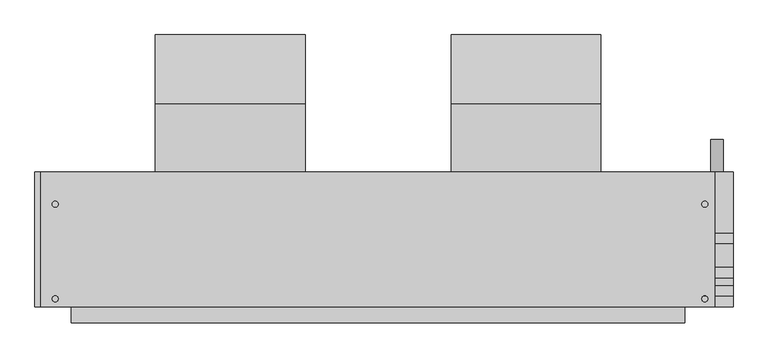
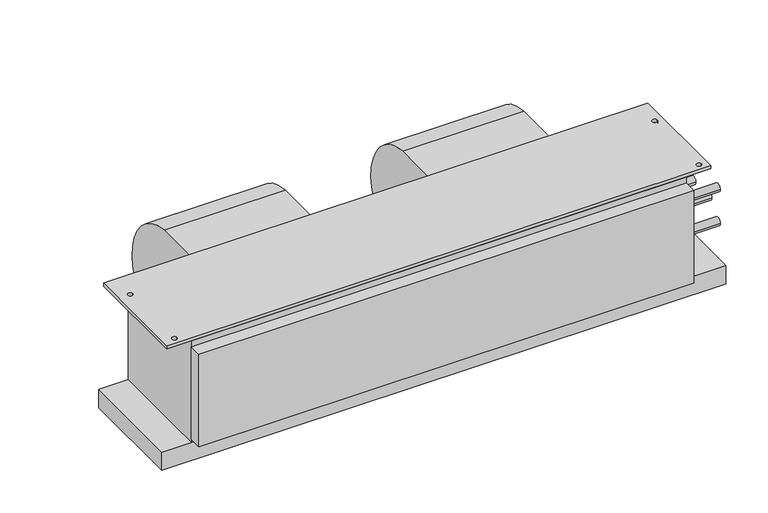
"""IFC4 building model written with IfcOpenShell, lengths in millimetres: proxy geometry, Concealed_Horizontal_Fan_Coil_Unit_-_42CAA_-_CARRIER_-_4-Pipe_RH_2022 : Size 08 - 277v/60Hz/1Ph - 4/1 Coil."""

from ifc_helpers import new_model, si_unit, point, frame, frame_2d, origin, place, context, project, spatial, polyline, circle_curve, trimmed, segment, composite_curve, outline, extrude, source, transform, mapped, element, save


def mechanical_equipment_892aee5b(model_context):
    return source(origin(), model_context, "Body", "SweptSolid", [
        extrude(outline(composite_curve([segment(trimmed(circle_curve(frame_2d((-33.198831, -136.0299844)), 117.3559541), [point((-23.8125, -19.05))], [point((84.1375, -138.176))], False, "CARTESIAN"), True, "CONTINUOUS"), segment(trimmed(circle_curve(frame_2d((-11.5977337, -136.4250563)), 95.7512443), [point((84.1375, -138.176))], [point((-23.8125, -231.394))], False, "CARTESIAN"), True, "CONTINUOUS"), segment(trimmed(circle_curve(frame_2d((-11.6288131, -136.6666968)), 95.5076133), [point((-23.8125, -231.394))], [point((-107.1245, -138.176))], False, "CARTESIAN"), True, "CONTINUOUS"), segment(trimmed(circle_curve(frame_2d((-126.2059828, -138.4775816)), 19.0838659), [point((-107.1245, -138.176))], [point((-119.3963373, -120.65))], True, "CARTESIAN"), True, "CONTINUOUS"), segment(polyline([(-119.3963373, -120.65), (-131.7625, -120.65), (-131.7625, -19.05), (-23.8125, -19.05)]), True, "CONTINUOUS")], self_intersect=False)), frame((267.5255, 0.0, 0.0), z_axis=(1.0, 0.0, 0.0), x_axis=(0.0, 1.0, 0.0)), (0.0, 0.0, 1.0), 235.712),
        extrude(outline(composite_curve([segment(trimmed(circle_curve(frame_2d((-33.198831, -136.0299844)), 117.3559541), [point((-23.8125, -19.05))], [point((84.1375, -138.176))], False, "CARTESIAN"), True, "CONTINUOUS"), segment(trimmed(circle_curve(frame_2d((-11.5977337, -136.4250563)), 95.7512443), [point((84.1375, -138.176))], [point((-23.8125, -231.394))], False, "CARTESIAN"), True, "CONTINUOUS"), segment(trimmed(circle_curve(frame_2d((-11.6288131, -136.6666968)), 95.5076133), [point((-23.8125, -231.394))], [point((-107.1245, -138.176))], False, "CARTESIAN"), True, "CONTINUOUS"), segment(trimmed(circle_curve(frame_2d((-126.2059828, -138.4775816)), 19.0838659), [point((-107.1245, -138.176))], [point((-119.3963373, -120.65))], True, "CARTESIAN"), True, "CONTINUOUS"), segment(polyline([(-119.3963373, -120.65), (-131.7625, -120.65), (-131.7625, -19.05), (-23.8125, -19.05)]), True, "CONTINUOUS")], self_intersect=False)), frame((-197.612, 0.0, 0.0), z_axis=(1.0, 0.0, 0.0), x_axis=(0.0, 1.0, 0.0)), (0.0, 0.0, 1.0), 235.712),
        extrude(outline(polyline([(682.625, -131.7625), (682.625, -344.4875), (-377.825, -344.4875), (-377.825, -131.7625), (682.625, -131.7625)]), holes=[composite_curve([segment(trimmed(circle_curve(frame_2d((-355.6, -182.5625)), 4.7625), [point((-360.3625, -182.5625))], [point((-350.8375, -182.5625))], True, "CARTESIAN"), True, "CONTINUOUS"), segment(trimmed(circle_curve(frame_2d((-355.6, -182.5625)), 4.7625), [point((-350.8375, -182.5625))], [point((-360.3625, -182.5625))], True, "CARTESIAN"), True, "CONTINUOUS")], self_intersect=False), composite_curve([segment(trimmed(circle_curve(frame_2d((-355.6, -331.7875)), 4.7625), [point((-360.3625, -331.7875))], [point((-350.8375, -331.7875))], True, "CARTESIAN"), True, "CONTINUOUS"), segment(trimmed(circle_curve(frame_2d((-355.6, -331.7875)), 4.7625), [point((-350.8375, -331.7875))], [point((-360.3625, -331.7875))], True, "CARTESIAN"), True, "CONTINUOUS")], self_intersect=False), composite_curve([segment(trimmed(circle_curve(frame_2d((666.75, -182.5625)), 4.7625), [point((661.9875, -182.5625))], [point((671.5125, -182.5625))], True, "CARTESIAN"), True, "CONTINUOUS"), segment(trimmed(circle_curve(frame_2d((666.75, -182.5625)), 4.7625), [point((671.5125, -182.5625))], [point((661.9875, -182.5625))], True, "CARTESIAN"), True, "CONTINUOUS")], self_intersect=False), composite_curve([segment(trimmed(circle_curve(frame_2d((666.75, -331.7875)), 4.7625), [point((661.9875, -331.7875))], [point((671.5125, -331.7875))], True, "CARTESIAN"), True, "CONTINUOUS"), segment(trimmed(circle_curve(frame_2d((666.75, -331.7875)), 4.7625), [point((671.5125, -331.7875))], [point((661.9875, -331.7875))], True, "CARTESIAN"), True, "CONTINUOUS")], self_intersect=False)]), frame((0.0, 0.0, -6.35), z_axis=(0.0, 0.0, 1.0), x_axis=(1.0, 0.0, 0.0)), (0.0, 0.0, 1.0), 6.35),
        extrude(outline(composite_curve([segment(trimmed(circle_curve(frame_2d((-241.3, 685.8)), 9.525), [point((-241.3, 676.275))], [point((-241.3, 695.325))], False, "CARTESIAN"), True, "CONTINUOUS"), segment(trimmed(circle_curve(frame_2d((-241.3, 685.8)), 9.525), [point((-241.3, 695.325))], [point((-241.3, 676.275))], False, "CARTESIAN"), True, "CONTINUOUS")], self_intersect=False)), frame((0.0, -131.7625, 0.0), z_axis=(0.0, 1.0, 0.0), x_axis=(0.0, 0.0, 1.0)), (0.0, 0.0, 1.0), 50.8),
        extrude(outline(polyline([(635.0, -369.8875), (-330.2, -369.8875), (-330.2, -344.4875), (635.0, -344.4875), (635.0, -369.8875)])), frame((0.0, 0.0, -209.55), z_axis=(0.0, 0.0, 1.0), x_axis=(1.0, 0.0, 0.0)), (0.0, 0.0, 1.0), 190.5),
        extrude(outline(polyline([(711.2, -131.7625), (711.2, -344.4875), (-387.35, -344.4875), (-387.35, -131.7625), (711.2, -131.7625)])), frame((0.0, 0.0, -254.0), z_axis=(0.0, 0.0, 1.0), x_axis=(1.0, 0.0, 0.0)), (0.0, 0.0, 1.0), 38.1),
        extrude(outline(composite_curve([segment(trimmed(circle_curve(frame_2d((-236.5375, -104.775)), 7.9375), [point((-244.475, -104.775))], [point((-228.6, -104.775))], False, "CARTESIAN"), True, "CONTINUOUS"), segment(trimmed(circle_curve(frame_2d((-236.5375, -104.775)), 7.9375), [point((-228.6, -104.775))], [point((-244.475, -104.775))], False, "CARTESIAN"), True, "CONTINUOUS")], self_intersect=False)), frame((635.0, 0.0, 0.0), z_axis=(1.0, 0.0, 0.0), x_axis=(0.0, 1.0, 0.0)), (0.0, 0.0, 1.0), 76.2),
        extrude(outline(composite_curve([segment(trimmed(circle_curve(frame_2d((-290.5125, -104.775)), 7.9375), [point((-298.45, -104.775))], [point((-282.575, -104.775))], False, "CARTESIAN"), True, "CONTINUOUS"), segment(trimmed(circle_curve(frame_2d((-290.5125, -104.775)), 7.9375), [point((-282.575, -104.775))], [point((-298.45, -104.775))], False, "CARTESIAN"), True, "CONTINUOUS")], self_intersect=False)), frame((635.0, 0.0, 0.0), z_axis=(1.0, 0.0, 0.0), x_axis=(0.0, 1.0, 0.0)), (0.0, 0.0, 1.0), 76.2),
        extrude(outline(composite_curve([segment(trimmed(circle_curve(frame_2d((-319.0875, -69.85)), 7.9375), [point((-327.025, -69.85))], [point((-311.15, -69.85))], False, "CARTESIAN"), True, "CONTINUOUS"), segment(trimmed(circle_curve(frame_2d((-319.0875, -69.85)), 7.9375), [point((-311.15, -69.85))], [point((-327.025, -69.85))], False, "CARTESIAN"), True, "CONTINUOUS")], self_intersect=False)), frame((635.0, 0.0, 0.0), z_axis=(1.0, 0.0, 0.0), x_axis=(0.0, 1.0, 0.0)), (0.0, 0.0, 1.0), 76.2),
        extrude(outline(composite_curve([segment(trimmed(circle_curve(frame_2d((-319.0875, -139.7)), 7.9375), [point((-327.025, -139.7))], [point((-311.15, -139.7))], False, "CARTESIAN"), True, "CONTINUOUS"), segment(trimmed(circle_curve(frame_2d((-319.0875, -139.7)), 7.9375), [point((-311.15, -139.7))], [point((-327.025, -139.7))], False, "CARTESIAN"), True, "CONTINUOUS")], self_intersect=False)), frame((635.0, 0.0, 0.0), z_axis=(1.0, 0.0, 0.0), x_axis=(0.0, 1.0, 0.0)), (0.0, 0.0, 1.0), 76.2),
        extrude(outline(polyline([(635.0, -344.4875), (-330.2, -344.4875), (-330.2, -131.7625), (635.0, -131.7625), (635.0, -344.4875)])), frame((0.0, 0.0, -215.9), z_axis=(0.0, 0.0, 1.0), x_axis=(1.0, 0.0, 0.0)), (0.0, 0.0, 1.0), 209.55),
    ])


if __name__ == "__main__":
    model = new_model("IFC4")
    model_context = context("Model", 3, world=origin())
    ifc_project = project(units=[si_unit("LENGTHUNIT", "METRE", prefix="MILLI")], contexts=[model_context])
    site = spatial("IfcSite", under=ifc_project)
    building = spatial("IfcBuilding", under=site)
    placement = place(None, origin())
    mechanical_equipment_shape = mechanical_equipment_892aee5b(model_context)
    element("IfcBuildingElementProxy", 1, Name="Concealed_Horizontal_Fan_Coil_Unit_-_42CAA_-_CARRIER_-_4-Pipe_RH_2022 : Size 08 - 277v/60Hz/1Ph - 4/1 Coil", ObjectType="Concealed_Horizontal_Fan_Coil_Unit_-_42CAA_-_CARRIER_-_4-Pipe_RH_2022 : Size 08 - 277v/60Hz/1Ph - 4/1 Coil", at=placement, inside=building, context=model_context, shape_type="MappedRepresentation", body=[
        mapped(mechanical_equipment_shape, transform((0.0, 0.0, 0.0), x_axis=(1.0, 0.0, 0.0), y_axis=(0.0, 1.0, 0.0), z_axis=(0.0, 0.0, 1.0))),
    ])
    save(model, "model.ifc")
